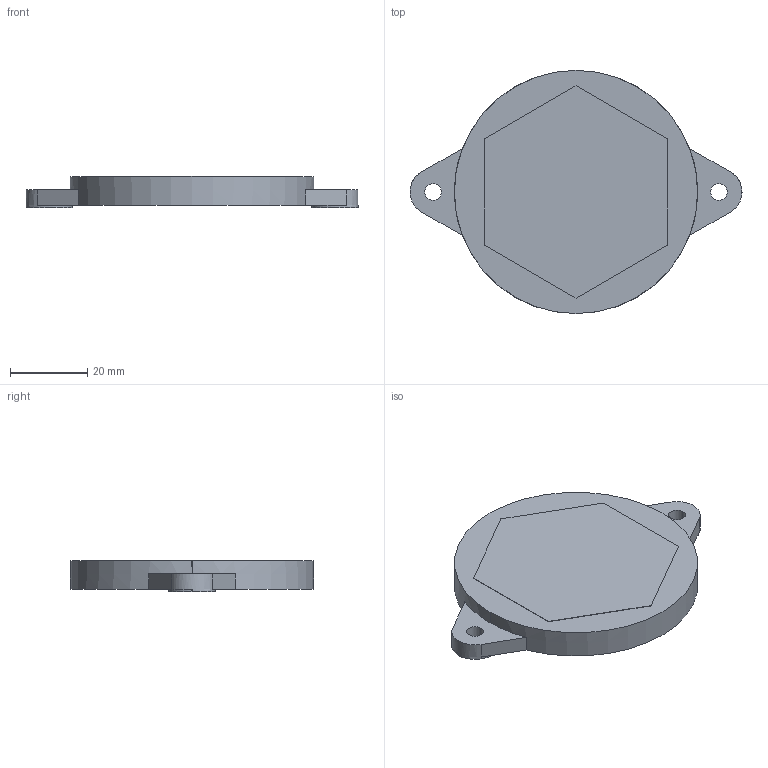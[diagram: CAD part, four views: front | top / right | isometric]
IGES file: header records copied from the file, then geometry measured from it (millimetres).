
Start section:  PTC IGES file: 2001060
Global section: file name: 2001060; native system: Creo Parametric by Parametric Technology Corporation; preprocessor: 2015110; author: rink; organization: Unknown; date: 20160922.134636; units: millimetre
Bounding box: 86 x 63 x 8.1 mm (x, y, z)
Surface area: 8597.3 mm2 (no closed solid volume)
Topology: 0 solids, 0 shells, 27 faces, 144 edges, 144 vertices
Faces by surface type: bspline 17, revolution 10
